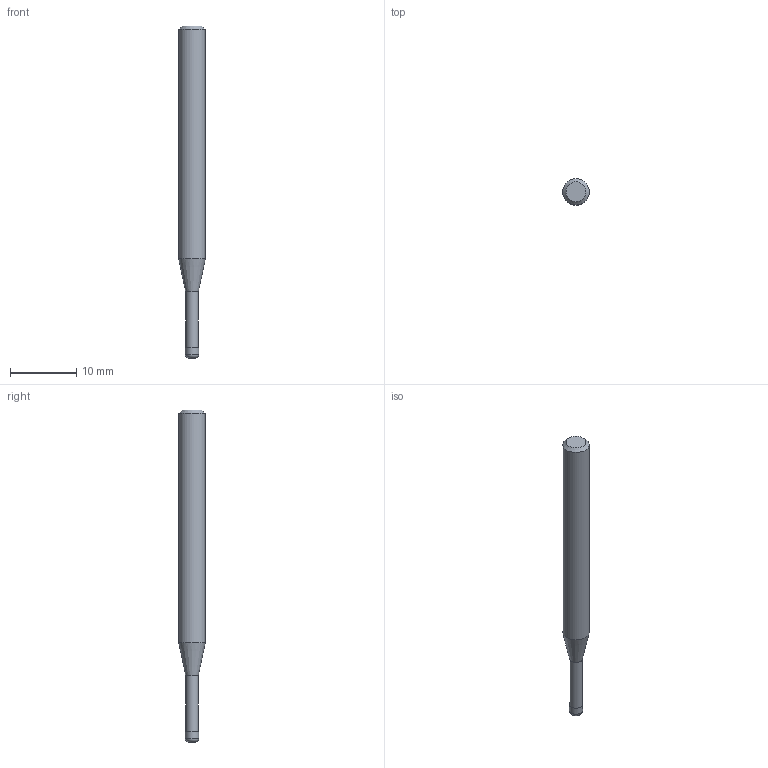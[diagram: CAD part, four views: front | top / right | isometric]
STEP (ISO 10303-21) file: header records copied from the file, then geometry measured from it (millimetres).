
FILE_DESCRIPTION((''),'2;1');
FILE_NAME('C:\Users\nsx150\AppData\Local\Temp\Mastercam 2021\17T8Q8S9EB\TEMP.step','2021-04-21T14:38:00',(''),(''),'STEP Write','Mastercam 2021 ... CNC Software, Inc.','');
FILE_SCHEMA(('AUTOMOTIVE_DESIGN'));
Length unit declared in the file: millimetre
Products named in the file (1): None
Bounding box: 4 x 4 x 50 mm (x, y, z)
Volume: 503.4 mm3; surface area: 564.2 mm2
Topology: 2 solids, 2 shells, 10 faces, 14 edges, 8 vertices
Faces by surface type: plane 4, cylinder 3, cone 2, torus 1
Full cylindrical faces by diameter (mm): 1.91 x1, 2 x1, 4 x1
Entity records: 232 total; most frequent: DIRECTION 40, CARTESIAN_POINT 28, AXIS2_PLACEMENT_3D 20, ORIENTED_EDGE 16, EDGE_LOOP 16, STYLED_ITEM 13, ADVANCED_FACE 10, FACE_BOUND 10
